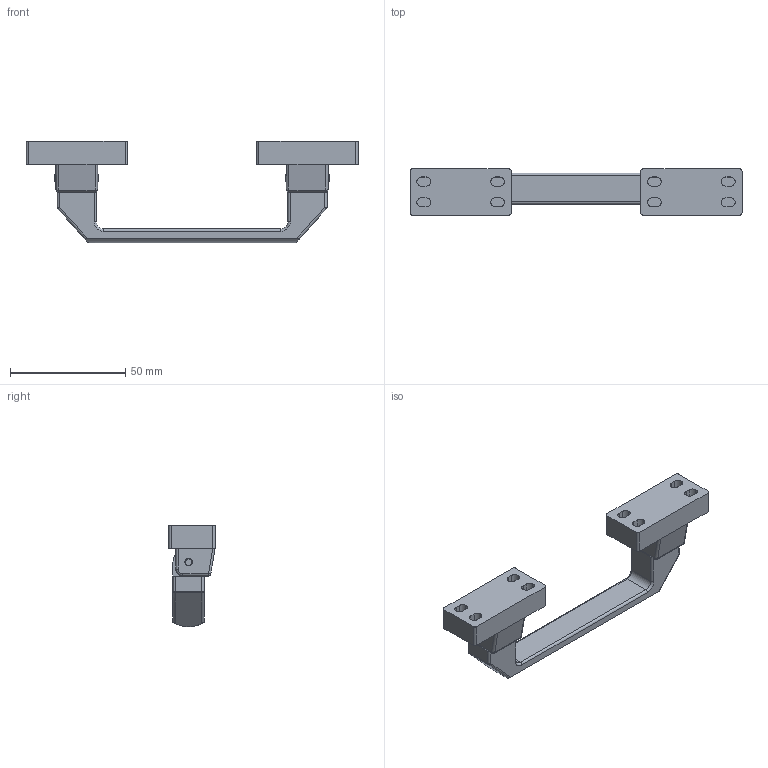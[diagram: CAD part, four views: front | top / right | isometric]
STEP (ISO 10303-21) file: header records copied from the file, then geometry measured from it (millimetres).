
FILE_DESCRIPTION (( 'STEP AP214' ), '1' );
FILE_NAME ('LS506.STEP', '2023-06-28T01:49:45', ( 'Windows 蚚誧' ), ( '' ), 'SwSTEP 2.0', 'SolidWorks 2019', '' );
FILE_SCHEMA (( 'AUTOMOTIVE_DESIGN' ));
Length unit declared in the file: millimetre
Products named in the file (4): 參忒; LS506; 錨璃1; 饜璃1
Assembly tree (7 placements, depth 2):
  LS506
    參忒
    錨璃1  x2
    饜璃1  x4
Bounding box: 143.91 x 20 x 44 mm (x, y, z)
Volume: 34177.3 mm3; surface area: 18701.3 mm2
Topology: 9 solids, 9 shells, 259 faces, 675 edges, 430 vertices
Faces by surface type: cylinder 130, plane 113, torus 8, sphere 8
Entity records: 4856 total; most frequent: CARTESIAN_POINT 840, DIRECTION 829, ORIENTED_EDGE 758, EDGE_CURVE 379, AXIS2_PLACEMENT_3D 303, VERTEX_POINT 242, VECTOR 223, LINE 223
